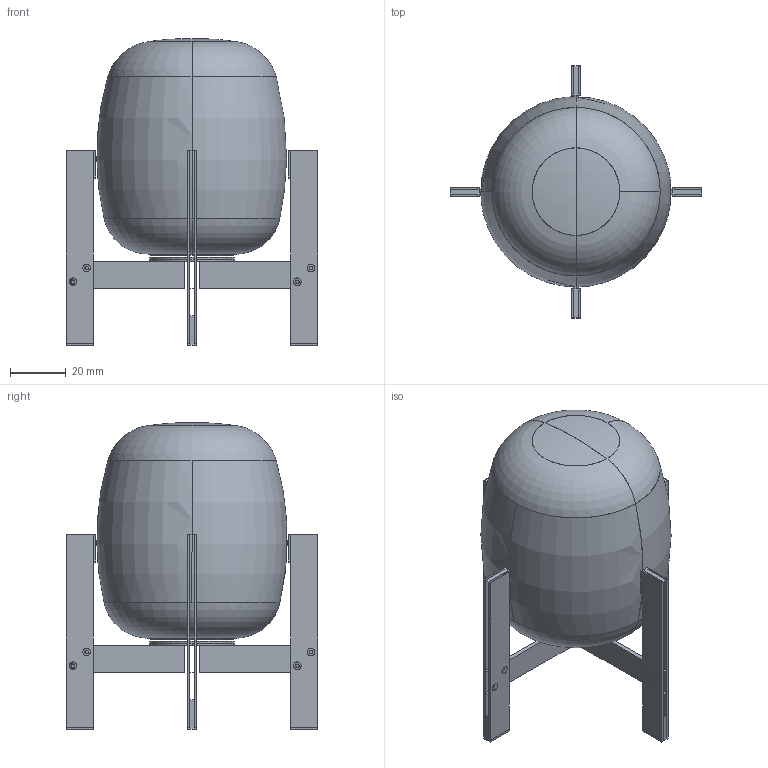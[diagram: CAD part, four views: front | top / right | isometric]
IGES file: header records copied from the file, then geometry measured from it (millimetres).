
Global section: file name: Cestita Metálica,; native system: Unknown; preprocessor: BodyObjectToATFToIges; author: Autodesk 3ds Max; organization: Autodesk; date: 20180117.120657; units: centimetre
Bounding box: 90.55 x 90.55 x 110.42 mm (x, y, z)
Surface area: 29081.3 mm2 (no closed solid volume)
Topology: 0 solids, 0 shells, 83 faces, 594 edges, 594 vertices
Faces by surface type: bspline 61, revolution 22
